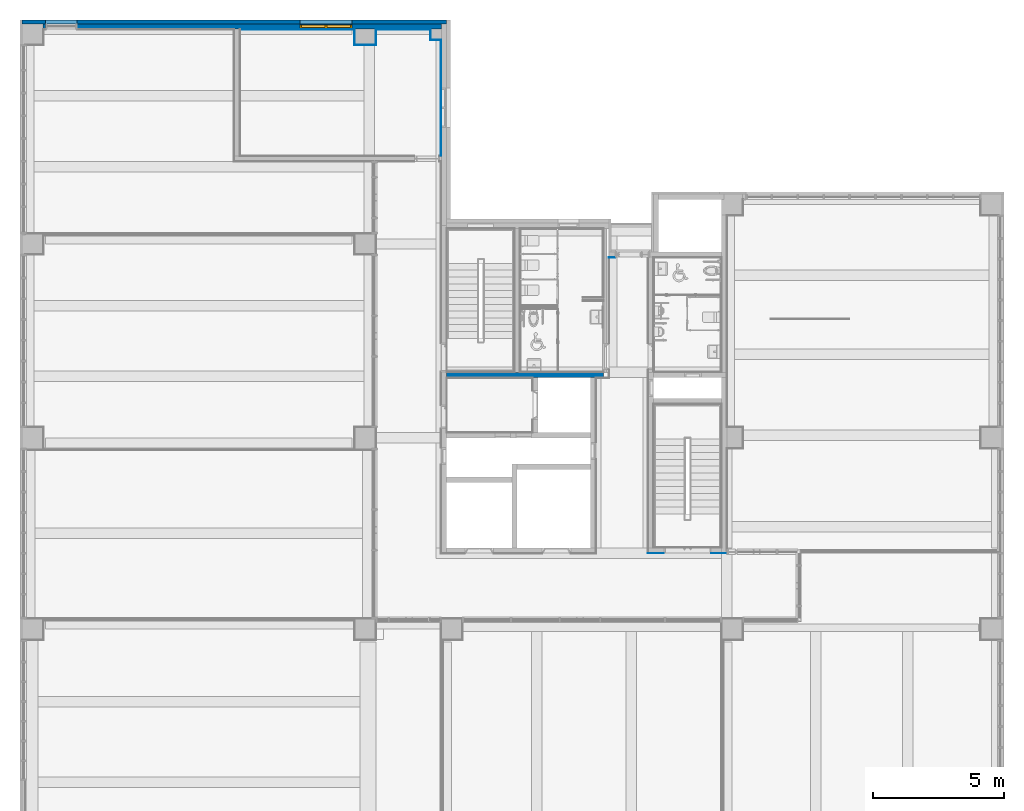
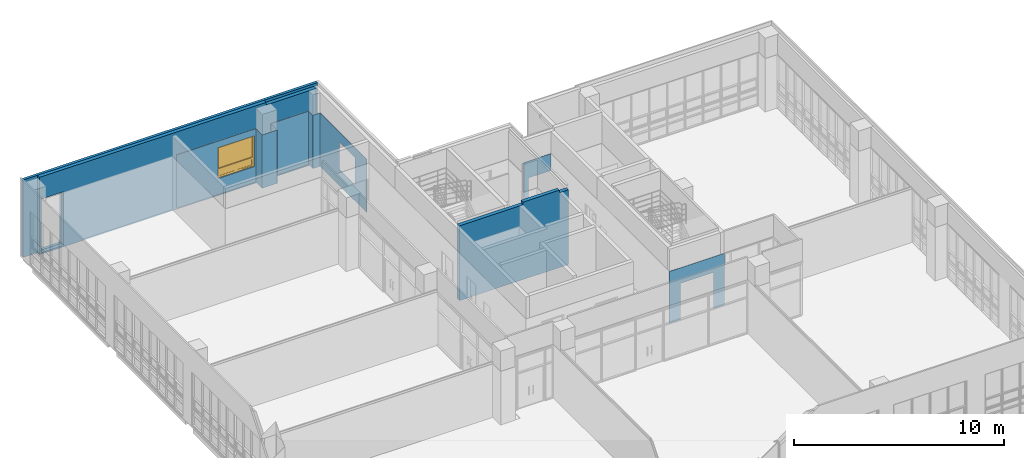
# One storey, part 63 of 74: 13 walls, 1 window, 7 openings.
"""IFC2X3 building model written with IfcOpenShell, lengths in millimetres."""

from ifc_helpers import new_model, entity, si_unit, converted_unit, derived_unit, direction, frame, frame_2d, origin, place, context, subcontext, project, spatial, polyline, rectangle, extrude, clip, bounded_halfspace, faceted_brep, source, transform, mapped, material, material_list, layer, layer_set, layer_usage, type_object, type_shapes, element, fill, save


model = new_model("IFC2X3")

# Units and contexts
model_context = context("Model", 3, precision=0.01, world=origin(), true_north=direction((6.123031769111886e-17, 1.0)))
body_context = subcontext(model_context, "Body", "Model", "MODEL_VIEW")
ifc_project = project(units=[si_unit("LENGTHUNIT", "METRE", prefix="MILLI"), si_unit("AREAUNIT", "SQUARE_METRE"), si_unit("VOLUMEUNIT", "CUBIC_METRE"), converted_unit("PLANEANGLEUNIT", "DEGREE", entity("IfcRatioMeasure", 0.017453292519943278), si_unit("PLANEANGLEUNIT", "RADIAN"), dimensions=[0, 0, 0, 0, 0, 0, 0]), si_unit("MASSUNIT", "GRAM", prefix="KILO"), derived_unit("MASSDENSITYUNIT", [(si_unit("MASSUNIT", "GRAM", prefix="KILO"), 1), (si_unit("LENGTHUNIT", "METRE"), -3)]), derived_unit("MOMENTOFINERTIAUNIT", [(si_unit("LENGTHUNIT", "METRE"), 4)]), si_unit("TIMEUNIT", "SECOND"), si_unit("FREQUENCYUNIT", "HERTZ"), si_unit("THERMODYNAMICTEMPERATUREUNIT", "DEGREE_CELSIUS"), derived_unit("THERMALTRANSMITTANCEUNIT", [(si_unit("MASSUNIT", "GRAM", prefix="KILO"), 1), (si_unit("THERMODYNAMICTEMPERATUREUNIT", "KELVIN"), -1), (si_unit("TIMEUNIT", "SECOND"), -3)]), derived_unit("VOLUMETRICFLOWRATEUNIT", [(si_unit("LENGTHUNIT", "METRE"), 3), (si_unit("TIMEUNIT", "SECOND"), -1)]), derived_unit("MASSFLOWRATEUNIT", [(si_unit("MASSUNIT", "GRAM", prefix="KILO"), 1), (si_unit("TIMEUNIT", "SECOND"), -1)]), derived_unit("ROTATIONALFREQUENCYUNIT", [(si_unit("TIMEUNIT", "SECOND"), -1)]), si_unit("ELECTRICCURRENTUNIT", "AMPERE"), si_unit("ELECTRICVOLTAGEUNIT", "VOLT"), si_unit("POWERUNIT", "WATT"), si_unit("FORCEUNIT", "NEWTON", prefix="KILO"), si_unit("ILLUMINANCEUNIT", "LUX"), si_unit("LUMINOUSFLUXUNIT", "LUMEN"), si_unit("LUMINOUSINTENSITYUNIT", "CANDELA"), derived_unit("USERDEFINED", [(si_unit("MASSUNIT", "GRAM", prefix="KILO"), -1), (si_unit("LENGTHUNIT", "METRE"), -2), (si_unit("TIMEUNIT", "SECOND"), 3), (si_unit("LUMINOUSFLUXUNIT", "LUMEN"), 1)]), derived_unit("SOUNDPOWERUNIT", [(si_unit("MASSUNIT", "GRAM", prefix="KILO"), 1), (si_unit("LENGTHUNIT", "METRE"), 2), (si_unit("TIMEUNIT", "SECOND"), -3)]), derived_unit("SOUNDPRESSUREUNIT", [(si_unit("MASSUNIT", "GRAM", prefix="KILO"), 1), (si_unit("LENGTHUNIT", "METRE"), -1), (si_unit("TIMEUNIT", "SECOND"), -2)]), derived_unit("LINEARVELOCITYUNIT", [(si_unit("LENGTHUNIT", "METRE"), 1), (si_unit("TIMEUNIT", "SECOND"), -1)]), si_unit("PRESSUREUNIT", "PASCAL"), derived_unit("USERDEFINED", [(si_unit("LENGTHUNIT", "METRE"), -2), (si_unit("MASSUNIT", "GRAM", prefix="KILO"), 1), (si_unit("TIMEUNIT", "SECOND"), -2)]), derived_unit("LINEARFORCEUNIT", [(si_unit("MASSUNIT", "GRAM", prefix="KILO"), 1), (si_unit("LENGTHUNIT", "METRE"), 1), (si_unit("TIMEUNIT", "SECOND"), -2), (si_unit("LENGTHUNIT", "METRE"), -1)]), derived_unit("PLANARFORCEUNIT", [(si_unit("MASSUNIT", "GRAM", prefix="KILO"), 1), (si_unit("LENGTHUNIT", "METRE"), 1), (si_unit("TIMEUNIT", "SECOND"), -2), (si_unit("LENGTHUNIT", "METRE"), -2)])], contexts=[model_context])

# Site, building, storey
site_placement = place(None, frame((-14167.972527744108, -657.2125860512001, 0.0)))
site = spatial("IfcSite", under=ifc_project, at=site_placement, Name="Default", CompositionType="ELEMENT")
building_placement = place(site_placement, origin())
building = spatial("IfcBuilding", under=site, at=building_placement, Name="Sample Building", CompositionType="ELEMENT")
storey_placement = place(building_placement, frame((0.0, 0.0, 4800.0)))
storey = spatial("IfcBuildingStorey", under=building, at=storey_placement, Name="지상 2층", CompositionType="ELEMENT", Elevation=4800.000000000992)

# Wall
ifc_material_1 = material(Name="KBIMS-콘크리트")
ifc_layer_1 = layer(ifc_material_1, 200.0)
ifc_layer_set_1 = layer_set([ifc_layer_1], Name="기본 벽:WA111-철근콘크리트구조 벽 200mm_CW1")
wall_type_1 = type_object("IfcWallType", Name="기본 벽:WA111-철근콘크리트구조 벽 200mm_CW1", PredefinedType="STANDARD", material=ifc_layer_set_1)
wall_1_placement = place(storey_placement, frame((30267.963761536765, 22357.21231133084, -1.9340006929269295e-09)))
element("IfcWall", 1, at=wall_1_placement, inside=storey, type_object=wall_type_1, Name="기본 벽:WA111-철근콘크리트구조 벽 200mm_CW1", ObjectType="기본 벽:WA111-철근콘크리트구조 벽 200mm_CW1", context=body_context, shape_type="Brep", body=[
    faceted_brep([(0.0, -100.0, 0.0), (3298.162052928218, -100.0, 0.0), (3300.0087295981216, -100.0, 0.0), (3500.0087295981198, -100.0, 0.0), (5500.008729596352, -100.0, 0.0), (5700.008729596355, -100.0, 0.0), (6000.000036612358, -100.0, 0.0), (6000.000036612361, -100.0, 4350.0), (5899.991380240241, -100.0, 4350.0), (5700.008729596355, -100.0, 4350.0), (5500.0087295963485, -100.0, 4350.0), (5500.0087295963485, -100.0, 4500.0), (3500.0087295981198, -100.0, 4500.0), (3500.0087295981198, -100.0, 4350.0), (3300.0087295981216, -100.0, 4350.0), (0.0, -100.0, 4350.0), (6000.000036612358, 100.0, 0.0), (2800.0087295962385, 100.0, 0.0), (2600.0087295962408, 100.0, 0.0), (0.0, 100.0, 0.0), (0.0, 100.0, 4350.0), (3500.0087295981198, 100.0, 4350.0), (3500.0087295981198, 100.0, 4500.0), (5500.0087295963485, 100.0, 4500.0), (5500.0087295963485, 100.0, 4350.0), (6000.000036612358, 100.0, 4350.0), (6000.000036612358, 100.0, 4300.0), (6000.000036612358, 100.0, 4100.0)], [[[0, 1, 2, 3, 4, 5, 6, 7, 8, 9, 10, 11, 12, 13, 14, 15]], [[16, 17, 18, 19, 20, 21, 22, 23, 24, 25, 26, 27]], [[6, 5, 4, 3, 2, 1, 0, 19, 18, 17, 16]], [[12, 11, 23, 22]], [[19, 0, 15, 20]], [[6, 16, 27, 26, 25, 7]], [[13, 21, 20, 15, 14]], [[21, 13, 12, 22]], [[10, 24, 23, 11]], [[24, 10, 9, 8, 7, 25]]]),
])

# Wall, openings, window
ifc_layer_2 = layer(ifc_material_1, 200.0)
ifc_layer_set_2 = layer_set([ifc_layer_2], Name="기본 벽:WA111-철근콘크리트구조 벽 200mm_W1")
ifc_layer_usage_1 = layer_usage(ifc_layer_set_2, "AXIS2", "NEGATIVE", 100.0)
wall_type_2 = type_object("IfcWallType", Name="기본 벽:WA111-철근콘크리트구조 벽 200mm_W1", PredefinedType="STANDARD", material=ifc_layer_set_2)
wall_2_placement = place(storey_placement, frame((14867.97245452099, 35657.21229514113, -1.9340006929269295e-09)))
wall_2 = element("IfcWallStandardCase", 2, at=wall_2_placement, inside=storey, type_object=wall_type_2, material=ifc_layer_usage_1, Name="기본 벽:WA111-철근콘크리트구조 벽 200mm_W1", ObjectType="기본 벽:WA111-철근콘크리트구조 벽 200mm_W1", context=body_context, shape_type="Clipping", body=[
    clip(clip(extrude(rectangle(XDim=15199.991307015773, YDim=199.99999999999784, at=frame_2d((7599.995653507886, 1.2576606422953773e-12), x_axis=(-1.0, 0.0))), origin(), (0.0, 0.0, 1.0), 4500.000000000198), bounded_halfspace(frame((12450.106694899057, 100.0, 4350.0), z_axis=(0.0, 0.0, -1.0), x_axis=(1.0, 0.0, 0.0)), True, frame((12450.106694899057, 100.0, 4350.0), z_axis=(0.0, 0.0, -1.0), x_axis=(1.0, 0.0, 0.0)), polyline([(0.0, 0.0), (838164.829773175, 2.5295776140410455e-09), (838164.8297731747, 60960.0), (716236.9032272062, 60960.0), (76162.202470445, 60960.0), (0.0, 60960.0), (0.0, 0.0)]))), bounded_halfspace(frame((12450.106694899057, -100.0, 4350.0), z_axis=(-1.0, 0.0, 0.0), x_axis=(0.0, 0.0, 1.0)), True, frame((12450.106694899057, -100.0, 4350.0), z_axis=(-1.0, 0.0, 0.0), x_axis=(0.0, 0.0, 1.0)), polyline([(0.0, 0.0), (45720.0, 0.0), (45720.0, 60960.0), (0.0, 60960.0), (0.0, 0.0)]))),
])
opening_1_placement = place(wall_2_placement, origin())
element("IfcOpeningElement", 3, at=opening_1_placement, cuts=wall_2, Name="기본 벽:WA111-철근콘크리트구조 벽 200mm_W1", ObjectType="Opening", context=body_context, shape_type="SweptSolid", body=[
    extrude(rectangle(XDim=3120.0000000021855, YDim=1200.0, at=frame_2d((-5.684341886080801e-13, 0.0), x_axis=(1.0, 0.0))), frame((700.0260314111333, -252.3999999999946, 1640.0), z_axis=(0.0, 1.0, 0.0), x_axis=(0.0, 0.0, 1.0)), (0.0, 0.0, 1.0), 504.79999999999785),
])
opening_2_placement = place(wall_2_placement, frame((11800.008809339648, 100.0, 1000.0)))
opening_2 = element("IfcOpeningElement", 4, at=opening_2_placement, cuts=wall_2, Name="WD842-2단 하부 더블 프로젝트 창(스테인리스 스틸):WD842-2단 하부 더블 프로젝트 창(스테인리스 스틸)_2000x1800mm:1", ObjectType="Opening", context=body_context, shape_type="SweptSolid", body=[
    extrude(rectangle(XDim=1799.9999999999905, YDim=1999.9999999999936, at=frame_2d((899.9999999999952, 999.9999999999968), x_axis=(1.0, 0.0))), frame((0.0, 0.0, 0.0), z_axis=(0.0, -1.0, 0.0), x_axis=(0.0, 0.0, 1.0)), (0.0, 0.0, 1.0), 200.0),
])
ifc_material_2 = material(Name="KBIMS-스테인리스 스틸_도금")
ifc_material_3 = material(Name="KBIMS-유리")
ifc_material_list_1 = material_list([ifc_material_2, ifc_material_3])
ifc_material_list_2 = material_list([ifc_material_2, ifc_material_3, ifc_material_2, ifc_material_3, ifc_material_2, ifc_material_2, ifc_material_3])
window_style = type_object("IfcWindowStyle", Name="WD842-2단 하부 더블 프로젝트 창(스테인리스 스틸):WD842-2단 하부 더블 프로젝트 창(스테인리스 스틸)_2000x1800mm", ConstructionType="NOTDEFINED", OperationType="NOTDEFINED", ParameterTakesPrecedence=False, Sizeable=False, material=ifc_material_list_2)
shared_shape = source(origin(), body_context, "Body", "Brep", [
    faceted_brep([(60.0, 37.49999999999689, 470.0), (60.0, 162.4999999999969, 470.0), (970.0, 162.4999999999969, 470.0), (970.0, 37.49999999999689, 470.0), (0.0, 162.4999999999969, 530.0), (0.0, 37.49999999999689, 530.0), (60.0, 37.49999999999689, 530.0), (1940.0, 37.49999999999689, 530.0), (2000.0, 37.49999999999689, 530.0), (2000.0, 162.4999999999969, 530.0), (1940.0, 162.4999999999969, 530.0), (60.0, 162.4999999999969, 530.0), (1940.0, 37.49999999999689, 470.0), (1940.0, 162.4999999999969, 470.0), (1940.0, 162.4999999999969, 60.0), (1940.0, 37.49999999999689, 60.0), (2000.0, 37.49999999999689, 0.0), (2000.0, 162.4999999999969, 0.0), (1030.0, 162.4999999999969, 60.0), (1030.0, 37.49999999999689, 60.0), (0.0, 37.49999999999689, 0.0), (0.0, 162.4999999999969, 0.0), (60.0, 37.49999999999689, 60.0), (60.0, 162.4999999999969, 60.0), (1030.0, 37.49999999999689, 470.0), (970.0, 37.49999999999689, 60.0), (1030.0, 162.4999999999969, 470.0), (970.0, 162.4999999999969, 60.0)], [[[0, 1, 2, 3]], [[4, 5, 6, 7, 8, 9, 10, 11]], [[12, 13, 14, 15]], [[9, 8, 16, 17]], [[15, 14, 18, 19]], [[17, 16, 20, 21]], [[1, 0, 22, 23]], [[8, 7, 6, 5, 20, 16], [12, 15, 19, 24], [0, 3, 25, 22]], [[5, 4, 21, 20]], [[14, 13, 26, 18], [23, 27, 2, 1], [4, 11, 10, 9, 17, 21]], [[18, 26, 24, 19]], [[2, 27, 25, 3]], [[23, 22, 25, 27]], [[13, 12, 24, 26]]], outer=[[True], [True], [True], [True], [True], [True], [True], [True, False, False], [True], [False, False, True], [True], [True], [True], [True]]),
    faceted_brep([(930.0, 151.0, 430.0), (930.0, 139.0, 430.0), (930.0, 139.0, 100.0), (930.0, 151.0, 100.0), (100.0, 139.0, 430.0), (100.0, 139.0, 100.0), (100.0, 151.0, 430.0), (100.0, 151.0, 100.0)], [[[0, 1, 2, 3]], [[1, 4, 5, 2]], [[4, 6, 7, 5]], [[0, 6, 4, 1]], [[3, 2, 5, 7]], [[6, 0, 3, 7]]]),
    faceted_brep([(110.0, 151.0, 420.0), (110.0, 160.0, 420.0), (920.0, 160.0, 420.0), (920.0, 151.0, 420.0), (100.0, 139.0, 430.0), (100.0, 151.0, 430.0), (930.0, 151.0, 430.0), (930.0, 139.0, 430.0), (110.0, 130.0, 420.0), (110.0, 139.0, 420.0), (920.0, 139.0, 420.0), (920.0, 130.0, 420.0), (60.0, 160.0, 470.0), (60.0, 130.0, 470.0), (970.0, 130.0, 470.0), (970.0, 160.0, 470.0), (920.0, 160.0, 110.0), (920.0, 151.0, 110.0), (930.0, 151.0, 100.0), (930.0, 139.0, 100.0), (920.0, 139.0, 110.0), (920.0, 130.0, 110.0), (970.0, 130.0, 60.0), (970.0, 160.0, 60.0), (110.0, 160.0, 110.0), (110.0, 151.0, 110.0), (100.0, 151.0, 100.0), (100.0, 139.0, 100.0), (110.0, 139.0, 110.0), (110.0, 130.0, 110.0), (60.0, 130.0, 60.0), (60.0, 160.0, 60.0)], [[[0, 1, 2, 3]], [[4, 5, 6, 7]], [[8, 9, 10, 11]], [[12, 13, 14, 15]], [[3, 2, 16, 17]], [[7, 6, 18, 19]], [[11, 10, 20, 21]], [[15, 14, 22, 23]], [[17, 16, 24, 25]], [[19, 18, 26, 27]], [[21, 20, 28, 29]], [[23, 22, 30, 31]], [[25, 24, 1, 0]], [[3, 17, 25, 0], [5, 26, 18, 6]], [[27, 26, 5, 4]], [[7, 19, 27, 4], [9, 28, 20, 10]], [[29, 28, 9, 8]], [[11, 21, 29, 8], [13, 30, 22, 14]], [[31, 30, 13, 12]], [[1, 24, 16, 2], [15, 23, 31, 12]]], outer=[[True], [True], [True], [True], [True], [True], [True], [True], [True], [True], [True], [True], [True], [False, True], [True], [True, False], [True], [False, True], [True], [False, True]]),
    faceted_brep([(1900.0, 151.0, 430.0), (1070.0, 151.0, 430.0), (1070.0, 139.0, 430.0), (1900.0, 139.0, 430.0), (1900.0, 151.0, 100.0), (1900.0, 139.0, 100.0), (1070.0, 139.0, 100.0), (1070.0, 151.0, 100.0)], [[[0, 1, 2, 3]], [[4, 5, 6, 7]], [[1, 0, 4, 7]], [[2, 1, 7, 6]], [[3, 2, 6, 5]], [[0, 3, 5, 4]]]),
    faceted_brep([(1070.0, 139.0, 100.0), (1070.0, 151.0, 100.0), (1070.0, 151.0, 430.0), (1070.0, 139.0, 430.0), (1890.0, 151.0, 420.0), (1890.0, 151.0, 110.0), (1080.0, 151.0, 110.0), (1080.0, 151.0, 420.0), (1900.0, 151.0, 100.0), (1900.0, 151.0, 430.0), (1080.0, 160.0, 110.0), (1080.0, 160.0, 420.0), (1890.0, 160.0, 420.0), (1890.0, 160.0, 110.0), (1900.0, 139.0, 430.0), (1900.0, 139.0, 100.0), (1890.0, 130.0, 420.0), (1890.0, 139.0, 420.0), (1890.0, 139.0, 110.0), (1890.0, 130.0, 110.0), (1080.0, 130.0, 420.0), (1080.0, 139.0, 420.0), (1030.0, 160.0, 470.0), (1030.0, 130.0, 470.0), (1940.0, 130.0, 470.0), (1940.0, 160.0, 470.0), (1940.0, 130.0, 60.0), (1940.0, 160.0, 60.0), (1080.0, 139.0, 110.0), (1080.0, 130.0, 110.0), (1030.0, 130.0, 60.0), (1030.0, 160.0, 60.0)], [[[0, 1, 2, 3]], [[4, 5, 6, 7], [2, 1, 8, 9]], [[6, 10, 11, 7]], [[4, 12, 13, 5]], [[14, 9, 8, 15]], [[16, 17, 18, 19]], [[7, 11, 12, 4]], [[3, 2, 9, 14]], [[20, 21, 17, 16]], [[22, 23, 24, 25]], [[25, 24, 26, 27]], [[5, 13, 10, 6]], [[15, 8, 1, 0]], [[19, 18, 28, 29]], [[27, 26, 30, 31]], [[14, 15, 0, 3], [21, 28, 18, 17]], [[29, 28, 21, 20]], [[16, 19, 29, 20], [23, 30, 26, 24]], [[31, 30, 23, 22]], [[11, 10, 13, 12], [25, 27, 31, 22]]], outer=[[True], [False, True], [True], [True], [True], [True], [True], [True], [True], [True], [True], [True], [True], [True], [True], [True, False], [True], [False, True], [True], [False, True]]),
    faceted_brep([(60.0, 37.50000000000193, 1740.0), (60.0, 162.50000000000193, 1740.0), (1940.0, 162.50000000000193, 1740.0), (1940.0, 37.50000000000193, 1740.0), (0.0, 162.50000000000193, 1800.0), (0.0, 37.50000000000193, 1800.0), (2000.0, 37.50000000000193, 1800.0), (2000.0, 162.50000000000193, 1800.0), (1940.0, 162.50000000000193, 530.0), (1940.0, 37.50000000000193, 530.0), (2000.0, 37.50000000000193, 530.0), (2000.0, 162.50000000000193, 530.0), (60.0, 37.50000000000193, 530.0), (60.0, 162.50000000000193, 530.0), (0.0, 37.50000000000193, 530.0), (0.0, 162.50000000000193, 530.0)], [[[0, 1, 2, 3]], [[4, 5, 6, 7]], [[3, 2, 8, 9]], [[7, 6, 10, 11]], [[1, 0, 12, 13]], [[0, 3, 9, 10, 6, 5, 14, 12]], [[5, 4, 15, 14]], [[2, 1, 13, 15, 4, 7, 11, 8]], [[13, 12, 14, 15]], [[9, 8, 11, 10]]]),
    faceted_brep([(1940.0, 106.0, 1740.0), (60.0, 106.0, 1740.0), (60.0, 94.0, 1740.0), (1940.0, 94.0, 1740.0), (1940.0, 106.0, 530.0), (60.0, 106.0, 530.0), (60.0, 94.0, 530.0), (1940.0, 94.0, 530.0)], [[[0, 1, 2, 3]], [[1, 0, 4, 5]], [[2, 1, 5, 6]], [[3, 2, 6, 7]], [[0, 3, 7, 4]], [[5, 4, 7, 6]]]),
])
type_shapes(window_style, [shared_shape])
window_placement = place(opening_2_placement, frame((0.0, 0.0, 1.9335857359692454e-09), z_axis=(0.0, 0.0, 1.0), x_axis=(-1.0, 0.0, 0.0)))
window = element("IfcWindow", 5, at=window_placement, inside=storey, type_object=window_style, material=ifc_material_list_1, Name="WD842-2단 하부 더블 프로젝트 창(스테인리스 스틸):WD842-2단 하부 더블 프로젝트 창(스테인리스 스틸)_2000x1800mm", ObjectType="WD842-2단 하부 더블 프로젝트 창(스테인리스 스틸):WD842-2단 하부 더블 프로젝트 창(스테인리스 스틸)_2000x1800mm", OverallHeight=1799.9999999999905, OverallWidth=1999.999999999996, context=body_context, shape_type="MappedRepresentation", body=[
    mapped(shared_shape, transform((0.0, 0.0, 0.0), scale=1.0)),
])
fill(opening_2, window)

# Wall, openings
ifc_material_4 = material(Name="WA240-ALC블록벽")
ifc_layer_3 = layer(ifc_material_4, 35.0)
ifc_material_5 = material(Name="WA795-(STEEL)BRACKET")
ifc_layer_4 = layer(ifc_material_5, 65.0)
ifc_material_6 = material(Name="WA821-압출스티로폼 벽 (본드붙임, 비중0.03) 50mm")
ifc_layer_5 = layer(ifc_material_6, 50.0)
ifc_layer_set_3 = layer_set([ifc_layer_3, ifc_layer_4, ifc_layer_5], Name="기본 벽:A2-22-02A-압출스티로폼, BRACKET(STEEL), ALC블록 (150mm)")
ifc_layer_usage_2 = layer_usage(ifc_layer_set_3, "AXIS2", "POSITIVE", -75.0)
wall_type_3 = type_object("IfcWallType", Name="기본 벽:A2-22-02A-압출스티로폼, BRACKET(STEEL), ALC블록 (150mm)", PredefinedType="STANDARD", material=ifc_layer_set_3)
wall_3_placement = place(storey_placement, frame((30267.963761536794, 35832.21229514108, -1.9340006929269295e-09), z_axis=(0.0, 0.0, 1.0), x_axis=(-1.0, 0.0, 0.0)))
wall_3 = element("IfcWallStandardCase", 6, at=wall_3_placement, inside=storey, type_object=wall_type_3, material=ifc_layer_usage_2, Name="기본 벽:A2-22-02A-압출스티로폼, BRACKET(STEEL), ALC블록 (150mm)", ObjectType="기본 벽:A2-22-02A-압출스티로폼, BRACKET(STEEL), ALC블록 (150mm)", context=body_context, shape_type="SweptSolid", body=[
    extrude(rectangle(XDim=16200.008656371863, YDim=150.00000000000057, at=frame_2d((8100.004328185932, 2.984279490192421e-13), x_axis=(-1.0, 0.0))), origin(), (0.0, 0.0, 1.0), 4500.000000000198),
])
opening_3_placement = place(wall_3_placement, origin())
element("IfcOpeningElement", 7, at=opening_3_placement, cuts=wall_3, Name="기본 벽:A2-22-02A-압출스티로폼, BRACKET(STEEL), ALC블록 (150mm)", ObjectType="Opening", context=body_context, shape_type="SweptSolid", body=[
    extrude(rectangle(XDim=3120.0000000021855, YDim=1200.0, at=frame_2d((0.0, -5.684341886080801e-13), x_axis=(0.0, 1.0))), frame((14699.96527560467, -227.4000000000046, 1640.0), z_axis=(0.0, 1.0, 0.0), x_axis=(-1.0, 0.0, 0.0)), (0.0, 0.0, 1.0), 454.8000000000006),
])
opening_4_placement = place(wall_3_placement, origin())
element("IfcOpeningElement", 8, at=opening_4_placement, cuts=wall_3, Name="기본 벽:A2-22-02A-압출스티로폼, BRACKET(STEEL), ALC블록 (150mm)", ObjectType="Opening", context=body_context, shape_type="SweptSolid", body=[
    extrude(rectangle(XDim=1799.9999999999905, YDim=1999.9999999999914, at=frame_2d((5.115907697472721e-13, 2.2168933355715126e-12), x_axis=(1.0, 0.0))), frame((4599.982497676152, -1449.0, 1900.0), z_axis=(0.0, 1.0, 0.0), x_axis=(0.0, 0.0, 1.0)), (0.0, 0.0, 1.0), 3048.0),
])

# Wall, opening
ifc_material_7 = material(Name="WA611-수성페인트 (내부) 벽 (3회)")
ifc_layer_6 = layer(ifc_material_7, 1.0)
ifc_material_8 = material(Name="WA551-시멘트모르타르 (내부) 벽 18mm")
ifc_layer_7 = layer(ifc_material_8, 16.0)
ifc_material_9 = material(Name="WA555-콘크리트면정리 벽 (내부)")
ifc_layer_8 = layer(ifc_material_9, 1.0)
ifc_layer_set_4 = layer_set([ifc_layer_6, ifc_layer_7, ifc_layer_8], Name="기본 벽:A1-32-06A-콘크리트면정리, 시멘트모르타르(미장용), 수성페인트(내부) (18mm)")
ifc_layer_usage_3 = layer_usage(ifc_layer_set_4, "AXIS2", "NEGATIVE", 9.000000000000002)
wall_type_4 = type_object("IfcWallType", Name="기본 벽:A1-32-06A-콘크리트면정리, 시멘트모르타르(미장용), 수성페인트(내부) (18mm)", PredefinedType="STANDARD", material=ifc_layer_set_4)
wall_4_placement = place(storey_placement, frame((30058.96376153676, 30725.212275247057, 80.0), z_axis=(0.0, 0.0, 1.0), x_axis=(0.0, 1.0, 0.0)))
wall_4 = element("IfcWallStandardCase", 9, at=wall_4_placement, inside=storey, type_object=wall_type_4, material=ifc_layer_usage_3, Name="기본 벽:A1-32-06A-콘크리트면정리, 시멘트모르타르(미장용), 수성페인트(내부) (18mm)", ObjectType="기본 벽:A1-32-06A-콘크리트면정리, 시멘트모르타르(미장용), 수성페인트(내부) (18mm)", context=body_context, shape_type="SweptSolid", body=[
    extrude(rectangle(XDim=4432.000032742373, YDim=18.00000000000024, at=frame_2d((2216.0000163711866, -2.1662671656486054e-12), x_axis=(-1.0, 0.0))), origin(), (0.0, 0.0, 1.0), 3100.0000000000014),
])
opening_5_placement = place(wall_4_placement, origin())
element("IfcOpeningElement", 10, at=opening_5_placement, cuts=wall_4, Name="기본 벽:A1-32-06A-콘크리트면정리, 시멘트모르타르(미장용), 수성페인트(내부) (18mm)", ObjectType="Opening", context=body_context, shape_type="SweptSolid", body=[
    extrude(rectangle(XDim=1600.0000000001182, YDim=1499.9999999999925, at=frame_2d((2.1600499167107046e-12, 0.0), x_axis=(0.0, 1.0))), frame((1832.0000198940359, -1533.0, 1720.0), z_axis=(0.0, 1.0, 0.0), x_axis=(-1.0, 0.0, 0.0)), (0.0, 0.0, 1.0), 3048.0),
])

# Walls
ifc_layer_usage_4 = layer_usage(ifc_layer_set_4, "AXIS2", "NEGATIVE", 9.000000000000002)
wall_5_placement = place(storey_placement, frame((30049.96376153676, 35148.21230798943, 80.0), z_axis=(0.0, 0.0, 1.0), x_axis=(-1.0, 0.0, 0.0)))
element("IfcWallStandardCase", 11, at=wall_5_placement, inside=storey, type_object=wall_type_4, material=ifc_layer_usage_4, Name="기본 벽:A1-32-06A-콘크리트면정리, 시멘트모르타르(미장용), 수성페인트(내부) (18mm)", ObjectType="기본 벽:A1-32-06A-콘크리트면정리, 시멘트모르타르(미장용), 수성페인트(내부) (18mm)", context=body_context, shape_type="SweptSolid", body=[
    extrude(rectangle(XDim=400.000000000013, YDim=18.00000000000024, at=frame_2d((200.0000000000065, -2.1662671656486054e-12), x_axis=(-1.0, 0.0))), origin(), (0.0, 0.0, 1.0), 3100.0000000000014),
])
ifc_layer_usage_5 = layer_usage(ifc_layer_set_4, "AXIS2", "NEGATIVE", 9.000000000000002)
wall_6_placement = place(storey_placement, frame((29658.963761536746, 35157.21230798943, 80.0), z_axis=(0.0, 0.0, 1.0), x_axis=(0.0, 1.0, 0.0)))
element("IfcWallStandardCase", 12, at=wall_6_placement, inside=storey, type_object=wall_type_4, material=ifc_layer_usage_5, Name="기본 벽:A1-32-06A-콘크리트면정리, 시멘트모르타르(미장용), 수성페인트(내부) (18mm)", ObjectType="기본 벽:A1-32-06A-콘크리트면정리, 시멘트모르타르(미장용), 수성페인트(내부) (18mm)", context=body_context, shape_type="SweptSolid", body=[
    extrude(rectangle(XDim=399.99998715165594, YDim=18.00000000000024, at=frame_2d((199.99999357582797, -2.1662671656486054e-12), x_axis=(-1.0, 0.0))), origin(), (0.0, 0.0, 1.0), 3100.0000000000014),
])
ifc_layer_usage_6 = layer_usage(ifc_layer_set_4, "AXIS2", "NEGATIVE", 9.000000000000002)
wall_7_placement = place(storey_placement, frame((29649.96376153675, 35548.212295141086, 80.0), z_axis=(0.0, 0.0, 1.0), x_axis=(-1.0, 0.0, 0.0)))
element("IfcWallStandardCase", 13, at=wall_7_placement, inside=storey, type_object=wall_type_4, material=ifc_layer_usage_6, Name="기본 벽:A1-32-06A-콘크리트면정리, 시멘트모르타르(미장용), 수성페인트(내부) (18mm)", ObjectType="기본 벽:A1-32-06A-콘크리트면정리, 시멘트모르타르(미장용), 수성페인트(내부) (18mm)", context=body_context, shape_type="SweptSolid", body=[
    extrude(rectangle(XDim=2081.991270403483, YDim=18.00000000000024, at=frame_2d((1040.9956352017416, -2.1662671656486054e-12), x_axis=(-1.0, 0.0))), origin(), (0.0, 0.0, 1.0), 3100.0000000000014),
])
ifc_layer_usage_7 = layer_usage(ifc_layer_set_4, "AXIS2", "NEGATIVE", 9.000000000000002)
wall_8_placement = place(storey_placement, frame((27576.972491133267, 35539.212295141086, 80.0), z_axis=(0.0, 0.0, 1.0), x_axis=(0.0, -1.0, 0.0)))
element("IfcWallStandardCase", 14, at=wall_8_placement, inside=storey, type_object=wall_type_4, material=ifc_layer_usage_7, Name="기본 벽:A1-32-06A-콘크리트면정리, 시멘트모르타르(미장용), 수성페인트(내부) (18mm)", ObjectType="기본 벽:A1-32-06A-콘크리트면정리, 시멘트모르타르(미장용), 수성페인트(내부) (18mm)", context=body_context, shape_type="SweptSolid", body=[
    extrude(rectangle(XDim=600.0000145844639, YDim=18.00000000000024, at=frame_2d((300.00000729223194, -2.1662671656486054e-12), x_axis=(-1.0, 0.0))), origin(), (0.0, 0.0, 1.0), 3100.0000000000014),
])
ifc_layer_usage_8 = layer_usage(ifc_layer_set_4, "AXIS2", "NEGATIVE", 9.000000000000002)
wall_9_placement = place(storey_placement, frame((27567.972491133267, 34948.21228055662, 80.0), z_axis=(0.0, 0.0, 1.0), x_axis=(-1.0, 0.0, 0.0)))
element("IfcWallStandardCase", 15, at=wall_9_placement, inside=storey, type_object=wall_type_4, material=ifc_layer_usage_8, Name="기본 벽:A1-32-06A-콘크리트면정리, 시멘트모르타르(미장용), 수성페인트(내부) (18mm)", ObjectType="기본 벽:A1-32-06A-콘크리트면정리, 시멘트모르타르(미장용), 수성페인트(내부) (18mm)", context=body_context, shape_type="SweptSolid", body=[
    extrude(rectangle(XDim=818.000000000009, YDim=18.00000000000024, at=frame_2d((409.0000000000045, -2.1662671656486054e-12), x_axis=(-1.0, 0.0))), origin(), (0.0, 0.0, 1.0), 3100.0000000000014),
])
ifc_layer_usage_9 = layer_usage(ifc_layer_set_4, "AXIS2", "NEGATIVE", 9.000000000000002)
wall_10_placement = place(storey_placement, frame((26758.972491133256, 34957.212280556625, 80.0), z_axis=(0.0, 0.0, 1.0), x_axis=(0.0, 1.0, 0.0)))
element("IfcWallStandardCase", 16, at=wall_10_placement, inside=storey, type_object=wall_type_4, material=ifc_layer_usage_9, Name="기본 벽:A1-32-06A-콘크리트면정리, 시멘트모르타르(미장용), 수성페인트(내부) (18mm)", ObjectType="기본 벽:A1-32-06A-콘크리트면정리, 시멘트모르타르(미장용), 수성페인트(내부) (18mm)", context=body_context, shape_type="SweptSolid", body=[
    extrude(rectangle(XDim=600.0000145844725, YDim=18.00000000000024, at=frame_2d((300.00000729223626, -2.1662671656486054e-12), x_axis=(-1.0, 0.0))), origin(), (0.0, 0.0, 1.0), 3100.0000000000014),
])

# Wall, openings
ifc_layer_usage_10 = layer_usage(ifc_layer_set_4, "AXIS2", "NEGATIVE", 9.000000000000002)
wall_11_placement = place(storey_placement, frame((26749.972491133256, 35548.21229514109, 80.0), z_axis=(0.0, 0.0, 1.0), x_axis=(-1.0, 0.0, 0.0)))
wall_11 = element("IfcWallStandardCase", 17, at=wall_11_placement, inside=storey, type_object=wall_type_4, material=ifc_layer_usage_10, Name="기본 벽:A1-32-06A-콘크리트면정리, 시멘트모르타르(미장용), 수성페인트(내부) (18mm)", ObjectType="기본 벽:A1-32-06A-콘크리트면정리, 시멘트모르타르(미장용), 수성페인트(내부) (18mm)", context=body_context, shape_type="SweptSolid", body=[
    extrude(rectangle(XDim=4364.00000000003, YDim=18.00000000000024, at=frame_2d((2182.000000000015, -2.1662671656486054e-12), x_axis=(-1.0, 0.0))), origin(), (0.0, 0.0, 1.0), 3100.0000000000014),
])
opening_6_placement = place(wall_11_placement, origin())
element("IfcOpeningElement", 18, at=opening_6_placement, cuts=wall_11, Name="기본 벽:A1-32-06A-콘크리트면정리, 시멘트모르타르(미장용), 수성페인트(내부) (18mm)", ObjectType="Opening", context=body_context, shape_type="SweptSolid", body=[
    extrude(rectangle(XDim=3120.0000000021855, YDim=1200.0, at=frame_2d((0.0, -5.684341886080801e-13), x_axis=(0.0, 1.0))), frame((11181.974005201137, -161.40000000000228, 1560.0), z_axis=(0.0, 1.0, 0.0), x_axis=(-1.0, 0.0, 0.0)), (0.0, 0.0, 1.0), 322.80000000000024),
])
opening_7_placement = place(wall_11_placement, origin())
element("IfcOpeningElement", 19, at=opening_7_placement, cuts=wall_11, Name="기본 벽:A1-32-06A-콘크리트면정리, 시멘트모르타르(미장용), 수성페인트(내부) (18mm)", ObjectType="Opening", context=body_context, shape_type="SweptSolid", body=[
    extrude(rectangle(XDim=1799.9999999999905, YDim=1999.9999999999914, at=frame_2d((5.115907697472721e-13, 2.2168933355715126e-12), x_axis=(1.0, 0.0))), frame((1081.9912272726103, -1733.0, 1820.0), z_axis=(0.0, 1.0, 0.0), x_axis=(0.0, 0.0, 1.0)), (0.0, 0.0, 1.0), 3048.0),
])

# Walls
wall_12_placement = place(storey_placement, frame((40967.963798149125, 15553.177678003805, 80.0), z_axis=(0.0, 0.0, 1.0), x_axis=(-1.0, 0.0, 0.0)))
element("IfcWall", 20, at=wall_12_placement, inside=storey, type_object=wall_type_4, Name="기본 벽:A1-32-06A-콘크리트면정리, 시멘트모르타르(미장용), 수성페인트(내부) (18mm)", ObjectType="기본 벽:A1-32-06A-콘크리트면정리, 시멘트모르타르(미장용), 수성페인트(내부) (18mm)", context=body_context, shape_type="Brep", body=[
    faceted_brep([(3018.0, -9.0, 0.0), (3018.0, -9.0, 3000.0), (3000.0, -9.0, 3000.0), (3000.0, -9.0, 0.0), (0.0, 9.0, 0.0), (0.0, 9.0, 3000.0), (3018.0, 9.0, 3000.0), (3018.0, 9.0, 0.0), (2400.0, 9.0, 0.0), (2400.0, 9.0, 2100.0), (600.0, 9.0, 2100.0), (600.0, 9.0, 0.0), (600.0, -4.034617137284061, 0.0), (0.0, -4.034617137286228, 0.0), (0.0, -4.034617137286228, 3000.0), (3000.0, -4.034617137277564, 3000.0), (600.0, -4.034617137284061, 2100.0), (2400.0, -4.034617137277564, 2100.0), (2400.0, -4.034617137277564, 0.0), (3000.0, -4.034617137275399, 0.0)], [[[0, 1, 2, 3]], [[4, 5, 6, 7, 8, 9, 10, 11]], [[12, 13, 4, 11]], [[1, 6, 5, 14, 15, 2]], [[12, 16, 17, 18, 19, 15, 14, 13]], [[5, 4, 13, 14]], [[15, 19, 3, 2]], [[11, 10, 16, 12]], [[10, 9, 17, 16]], [[9, 8, 18, 17]], [[0, 7, 6, 1]], [[8, 7, 0, 3, 19, 18]]]),
])
wall_13_placement = place(storey_placement, frame((37949.96379814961, 26848.212295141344, 80.0), z_axis=(0.0, 0.0, 1.0), x_axis=(-1.0, 0.0, 0.0)))
element("IfcWall", 21, at=wall_13_placement, inside=storey, type_object=wall_type_4, Name="기본 벽:A1-32-06A-콘크리트면정리, 시멘트모르타르(미장용), 수성페인트(내부) (18mm)", ObjectType="기본 벽:A1-32-06A-콘크리트면정리, 시멘트모르타르(미장용), 수성페인트(내부) (18mm)", context=body_context, shape_type="Brep", body=[
    faceted_brep([(1482.0, -9.0, 3000.0), (0.0, -9.0, 3000.0), (0.0, -9.0, 2020.0), (1232.0, -9.0, 2020.0), (1232.0, -9.0, 0.0), (1482.0, -9.0, 0.0), (0.0, 9.0, 3000.0), (1482.0, 9.0, 3000.0), (1482.0, 9.0, 0.0), (1232.0, 9.0, 0.0), (1232.0, 9.0, 2020.0), (0.0, 9.0, 2020.0)], [[[0, 1, 2, 3, 4, 5]], [[6, 7, 8, 9, 10, 11]], [[8, 5, 4, 9]], [[1, 0, 7, 6]], [[1, 6, 11, 2]], [[0, 5, 8, 7]], [[3, 10, 9, 4]], [[10, 3, 2, 11]]]),
])

save(model, "model.ifc")
